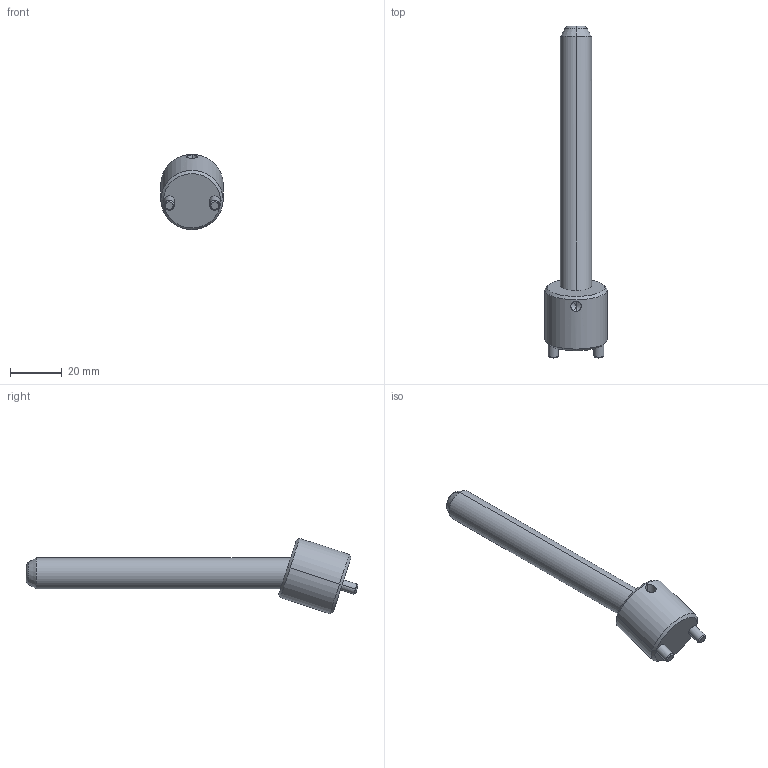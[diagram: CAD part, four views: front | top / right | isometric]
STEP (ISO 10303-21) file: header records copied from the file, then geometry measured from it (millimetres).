
FILE_DESCRIPTION(('CATIA V5 STEP Exchange'),'2;1');
FILE_NAME('C:\Users\Raffaele\Desktop\3D BOLEX\3D FILES CF BOLEX\19-INCLINED ASSEMBLY REF_CI\CI1812100.stp','2019-06-21T12:36:14+00:00',('none'),('none'),'CATIA Version 5 Release 20 GA (IN-10)','CATIA V5 STEP AP203','none');
FILE_SCHEMA(('CONFIG_CONTROL_DESIGN'));
Length unit declared in the file: millimetre
Products named in the file (1): CI1812100
Assembly tree (2 placements, depth 2):
  CI1812100
    #58
    #578
Bounding box: 24 x 127.87 x 29.01 mm (x, y, z)
Volume: 21026.4 mm3; surface area: 7960 mm2
Topology: 2 solids, 2 shells, 39 faces, 82 edges, 47 vertices
Faces by surface type: cone 14, cylinder 14, plane 7, torus 4
Entity records: 1470 total; most frequent: CARTESIAN_POINT 611, ORIENTED_EDGE 160, DIRECTION 145, EDGE_CURVE 80, AXIS2_PLACEMENT_3D 72, VERTEX_POINT 47, EDGE_LOOP 43, ADVANCED_FACE 39
